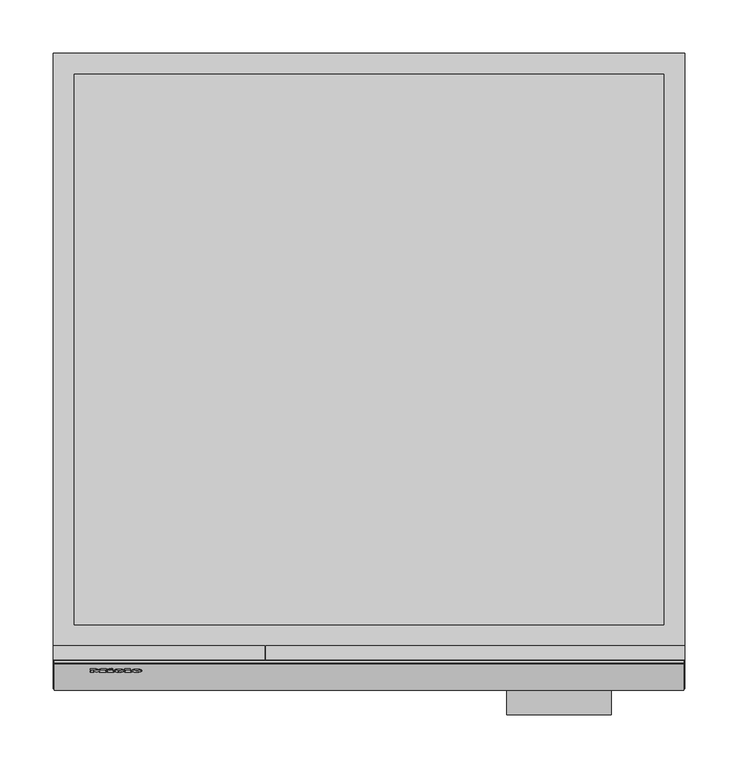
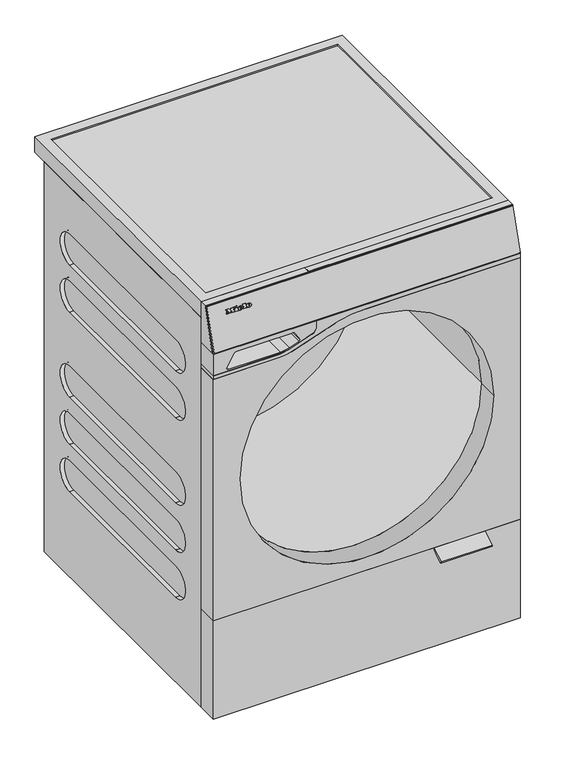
"""IFC4 building model written with IfcOpenShell, lengths in millimetres: proxy geometry, 12699240_TR_WQ1000WPS_LW : 11Q10002_TR_12699240_WQ1000WPS_LW."""

from ifc_helpers import new_model, si_unit, point, frame, frame_2d, origin, origin_with_axes, place, context, project, spatial, polyline, circle_curve, ellipse_curve, trimmed, segment, composite_curve, outline, extrude, source, transform, mapped, element, save
from ifc_brep_helpers import plane_surface, cylinder_surface, revolved_surface, extruded_surface, advanced_brep


def specialty_equipment_7e1ea05f(model_context):
    return source(origin(), model_context, "Body", "SolidModel", [
        extrude(outline(polyline([(0.0, 0.0), (0.0, -1.304), (-5.576, -1.304), (-7.92, 1.696), (-10.256, -1.304), (-15.128, -1.304), (-15.128, 0.0), (-14.112, 0.0), (-14.112, 5.352), (-15.128, 5.352), (-15.128, 6.696), (-8.744, 6.696), (-8.744, 5.352), (-9.728, 5.352), (-9.728, 1.8807777), (-6.136, 6.696), (-2.56, 1.9488753), (-2.56, 5.352), (-3.52, 5.352), (-3.52, 6.696), (0.0, 6.696), (0.0, 5.352), (-0.968, 5.352), (-0.968, 0.0), (0.0, 0.0)])), frame((-263.0, -580.9814349, 828.6106069), z_axis=(0.0, -0.9563047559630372, 0.2923717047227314), x_axis=(-1.0, 0.0, 0.0)), (0.0, 0.0, 1.0), 1.0),
        extrude(outline(polyline([(0.0, 0.0), (0.0, -1.304), (-5.504, -1.304), (-5.504, 5.352), (-6.488, 5.352), (-6.488, 6.696), (0.0, 6.696), (0.0, 5.352), (-0.96, 5.352), (-0.96, 0.0), (0.0, 0.0)])), frame((-230.536, -580.9814349, 828.6106069), z_axis=(0.0, -0.9563047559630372, 0.2923717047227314), x_axis=(-1.0, 0.0, 0.0)), (0.0, 0.0, 1.0), 1.0),
        extrude(outline(polyline([(0.0, 0.0), (-0.0109086, -2.9993294), (-1.4390415, -2.9920868), (-1.4315307, 0.0), (0.0, 0.0)])), frame((-245.08, -580.7381816, 829.4062525), z_axis=(0.0, -0.9563047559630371, 0.2923717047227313), x_axis=(-0.4247202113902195, 0.26469131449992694, 0.8657662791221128)), (0.0, 0.0, 1.0), 1.0),
        extrude(outline(polyline([(-0.4933909, 2.4141097), (-2.7800845, -2.4601582), (-7.0459743, -0.4588766), (-7.4401146, -1.2990179), (-8.656871, -0.7281939), (-5.976037, 4.9862153), (-4.7592806, 4.4153914), (-5.1636143, 3.5535223), (-2.1941494, 2.16044), (-1.7898157, 3.0223091), (-0.4933909, 2.4141097)])), frame((-245.08, -580.7381816, 829.4062525), z_axis=(0.0, -0.9563047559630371, 0.2923717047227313), x_axis=(-0.4247202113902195, 0.26469131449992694, 0.8657662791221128)), (0.0, 0.0, 1.0), 1.0),
        advanced_brep(
        [(-236.336, -583.3411238, 824.3127158), (-236.336, -583.1048875, 825.08541), (-230.984, -583.1048875, 825.08541), (-240.296, -583.1048875, 825.08541), (-238.096, -583.8954606, 822.499562), (-231.12, -583.3411238, 824.3127158), (-233.536, -583.3411238, 824.3127158), (-235.44, -583.6030888, 823.4558667), (-236.336, -582.8054988, 826.0646661), (-236.336, -582.5505507, 826.8985638), (-234.968, -582.5505507, 826.8985638), (-234.968, -582.8054988, 826.0646661), (-236.336, -582.384819, 824.0203441), (-235.44, -582.6467841, 823.163495), (-233.536, -582.384819, 824.0203441), (-231.12, -582.384819, 824.0203441), (-238.096, -582.9391558, 822.2071902), (-240.296, -582.1485827, 824.7930383), (-230.984, -582.1485827, 824.7930383), (-236.336, -582.1485827, 824.7930383), (-236.336, -581.8491941, 825.7722944), (-234.968, -581.8491941, 825.7722944), (-234.968, -581.594246, 826.6061921), (-236.336, -581.594246, 826.6061921)],
        [
            (0, 1),
            (1, 2),
            (2, 3, ellipse_curve(frame((-235.64, -583.1048875, 825.08541), z_axis=(0.0, -0.9563047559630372, 0.2923717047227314), x_axis=(-1.0, 0.0, 0.0)), 4.656, 3.848)),
            (3, 4, circle_curve(frame((-237.1999564, -583.0253624, 825.3455249), z_axis=(0.0, -0.9563047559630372, 0.2923717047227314), x_axis=(0.0, -0.2923717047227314, -0.9563047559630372)), 3.1079688)),
            (4, 5, circle_curve(frame((-235.7332064, -582.4078733, 827.3652406), z_axis=(0.0, -0.9563047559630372, 0.2923717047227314), x_axis=(0.0, -0.2923717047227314, -0.9563047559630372)), 5.6098607)),
            (5, 6),
            (6, 7, circle_curve(frame((-235.0489412, -583.1235993, 825.0242065), z_axis=(0.0, 0.9563047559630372, -0.2923717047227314), x_axis=(0.0, -0.2923717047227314, -0.9563047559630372)), 1.6859795)),
            (7, 0, circle_curve(frame((-235.44, -583.3411238, 824.3127158), z_axis=(0.0, 0.9563047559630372, -0.2923717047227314), x_axis=(0.0, -0.2923717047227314, -0.9563047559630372)), 0.896)),
            (8, 9),
            (9, 10, circle_curve(frame((-235.652, -582.5505507, 826.8985638), z_axis=(0.0, 0.9563047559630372, -0.2923717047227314), x_axis=(0.0, -0.2923717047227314, -0.9563047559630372)), 0.684)),
            (10, 11),
            (11, 8),
            (12, 13, circle_curve(frame((-235.44, -582.384819, 824.0203441), z_axis=(0.0, -0.9563047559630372, 0.2923717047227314), x_axis=(0.0, -0.2923717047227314, -0.9563047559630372)), 0.896)),
            (13, 14, circle_curve(frame((-235.0489412, -582.1672945, 824.7318348), z_axis=(0.0, -0.9563047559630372, 0.2923717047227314), x_axis=(0.0, -0.2923717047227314, -0.9563047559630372)), 1.6859795)),
            (14, 15),
            (15, 16, circle_curve(frame((-235.7332064, -581.4515686, 827.0728688), z_axis=(0.0, 0.9563047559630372, -0.2923717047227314), x_axis=(0.0, -0.2923717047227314, -0.9563047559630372)), 5.6098607)),
            (16, 17, circle_curve(frame((-237.1999564, -582.0690576, 825.0531532), z_axis=(0.0, 0.9563047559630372, -0.2923717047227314), x_axis=(0.0, -0.2923717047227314, -0.9563047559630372)), 3.1079688)),
            (17, 18, ellipse_curve(frame((-235.64, -582.1485827, 824.7930383), z_axis=(0.0, 0.9563047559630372, -0.2923717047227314), x_axis=(-1.0, 0.0, 0.0)), 4.656, 3.848)),
            (18, 19),
            (19, 12),
            (20, 21),
            (21, 22),
            (22, 23, circle_curve(frame((-235.652, -581.594246, 826.6061921), z_axis=(0.0, -0.9563047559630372, 0.2923717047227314), x_axis=(0.0, -0.2923717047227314, -0.9563047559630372)), 0.684)),
            (23, 20),
            (0, 12),
            (19, 1),
            (18, 2),
            (5, 15),
            (14, 6),
            (17, 3),
            (13, 7),
            (16, 4),
            (8, 20),
            (23, 9),
            (22, 10),
            (21, 11),
        ],
        [
            plane_surface(frame((-236.336, -583.1048875, 825.08541), z_axis=(0.0, -0.9563047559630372, 0.29237170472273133), x_axis=(0.0, 0.29237170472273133, 0.9563047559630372))),
            plane_surface(frame((-236.336, -582.1485827, 824.7930383), z_axis=(0.0, 0.9563047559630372, -0.29237170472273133), x_axis=(0.0, -0.29237170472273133, -0.9563047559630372))),
            plane_surface(frame((-236.336, -583.3411238, 824.3127158), z_axis=(1.0, 0.0, 0.0), x_axis=(0.0, 0.9563047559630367, -0.2923717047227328))),
            plane_surface(frame((-236.336, -583.1048875, 825.08541), z_axis=(0.0, -0.2923717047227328, -0.9563047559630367), x_axis=(0.0, 0.9563047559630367, -0.2923717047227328))),
            plane_surface(frame((-231.12, -583.3411238, 824.3127158), z_axis=(0.0, 0.2923717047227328, 0.9563047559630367), x_axis=(0.0, 0.9563047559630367, -0.2923717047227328))),
            extruded_surface(trimmed(ellipse_curve(frame((-235.64, -581.192278, 824.5006666), z_axis=(0.0, -0.9563047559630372, 0.2923717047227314), x_axis=(-1.0, 0.0, 0.0)), 4.656, 3.848), [point((-230.984, -581.192278, 824.5006666))], [point((-240.296, -581.192278, 824.5006666))], True, "CARTESIAN"), (0.0, -0.9563047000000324, 0.2923716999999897), 0.9999999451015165),
            revolved_surface(polyline([(-235.0489412, -582.6602271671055, 823.1195245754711), (-235.0489412, -583.6165319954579, 823.4118963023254)]), (-235.0489412, -582.1672945, 824.7318348), (0.0, 0.9563047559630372, -0.2923717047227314)),
            revolved_surface(polyline([(-235.44, -582.6467840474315, 823.1634950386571), (-235.44, -583.6030888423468, 823.4558667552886)]), (-235.44, -582.384819, 824.0203441), (0.0, 0.9563047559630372, -0.2923717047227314)),
            cylinder_surface(frame((-237.1999564, -582.0690576, 825.0531532), z_axis=(0.0, -0.9563047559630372, 0.2923717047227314), x_axis=(0.0, -0.2923717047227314, -0.9563047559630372)), 3.1079688),
            cylinder_surface(frame((-235.7332064, -581.4515686, 827.0728688), z_axis=(0.0, -0.9563047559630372, 0.2923717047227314), x_axis=(0.0, -0.2923717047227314, -0.9563047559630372)), 5.6098607),
            plane_surface(frame((-236.336, -582.8054988, 826.0646661), z_axis=(1.0, 0.0, 0.0), x_axis=(0.0, 0.9563047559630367, -0.2923717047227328))),
            revolved_surface(polyline([(-235.652, -581.7942282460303, 825.9520796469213), (-235.652, -582.7505329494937, 826.2444513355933)]), (-235.652, -581.594246, 826.6061921), (0.0, 0.9563047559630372, -0.2923717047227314)),
            plane_surface(frame((-234.968, -582.5505507, 826.8985638), z_axis=(-1.0, 0.0, 0.0), x_axis=(0.0, 0.9563047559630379, -0.29237170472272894))),
            plane_surface(frame((-234.968, -582.8054988, 826.0646661), z_axis=(0.0, 0.2923717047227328, 0.9563047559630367), x_axis=(0.0, 0.9563047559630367, -0.2923717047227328))),
        ],
        [
            (0, [[1, 2, 3, 4, 5, 6, 7, 8], [9, 10, 11, 12]]),
            (1, [[13, 14, 15, 16, 17, 18, 19, 20], [21, 22, 23, 24]]),
            (2, [[-1, 25, -20, 26]]),
            (3, [[-2, -26, -19, 27]]),
            (4, [[-6, 28, -15, 29]]),
            (5, [[-3, -27, -18, 30]]),
            (6, [[-7, -29, -14, 31]]),
            (7, [[-8, -31, -13, -25]]),
            (8, [[-4, -30, -17, 32]]),
            (9, [[-5, -32, -16, -28]]),
            (10, [[-9, 33, -24, 34]]),
            (11, [[-10, -34, -23, 35]]),
            (12, [[-11, -35, -22, 36]]),
            (13, [[-12, -36, -21, -33]]),
        ],
    ),
        advanced_brep(
        [(-219.64, -583.3411238, 824.3127158), (-219.64, -583.1048875, 825.08541), (-214.288, -583.1048875, 825.08541), (-223.6, -583.1048875, 825.08541), (-221.4, -583.8954606, 822.499562), (-214.424, -583.3411238, 824.3127158), (-216.84, -583.3411238, 824.3127158), (-218.744, -583.6030888, 823.4558667), (-219.64, -582.8054988, 826.0646661), (-219.64, -582.5505507, 826.8985638), (-218.272, -582.5505507, 826.8985638), (-218.272, -582.8054988, 826.0646661), (-219.64, -582.384819, 824.0203441), (-218.744, -582.6467841, 823.163495), (-216.84, -582.384819, 824.0203441), (-214.424, -582.384819, 824.0203441), (-221.4, -582.9391558, 822.2071902), (-223.6, -582.1485827, 824.7930383), (-214.288, -582.1485827, 824.7930383), (-219.64, -582.1485827, 824.7930383), (-219.64, -581.8491941, 825.7722944), (-218.272, -581.8491941, 825.7722944), (-218.272, -581.594246, 826.6061921), (-219.64, -581.594246, 826.6061921)],
        [
            (0, 1),
            (1, 2),
            (2, 3, ellipse_curve(frame((-218.944, -583.1048875, 825.08541), z_axis=(0.0, -0.9563047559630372, 0.2923717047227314), x_axis=(-1.0, 0.0, 0.0)), 4.656, 3.848)),
            (3, 4, circle_curve(frame((-220.5039564, -583.0253624, 825.3455249), z_axis=(0.0, -0.9563047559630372, 0.2923717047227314), x_axis=(0.0, -0.2923717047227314, -0.9563047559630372)), 3.1079688)),
            (4, 5, circle_curve(frame((-219.0372064, -582.4078733, 827.3652406), z_axis=(0.0, -0.9563047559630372, 0.2923717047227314), x_axis=(0.0, -0.2923717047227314, -0.9563047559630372)), 5.6098607)),
            (5, 6),
            (6, 7, circle_curve(frame((-218.3529412, -583.1235993, 825.0242065), z_axis=(0.0, 0.9563047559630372, -0.2923717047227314), x_axis=(0.0, -0.2923717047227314, -0.9563047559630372)), 1.6859795)),
            (7, 0, circle_curve(frame((-218.744, -583.3411238, 824.3127158), z_axis=(0.0, 0.9563047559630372, -0.2923717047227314), x_axis=(0.0, -0.2923717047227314, -0.9563047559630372)), 0.896)),
            (8, 9),
            (9, 10, circle_curve(frame((-218.956, -582.5505507, 826.8985638), z_axis=(0.0, 0.9563047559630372, -0.2923717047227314), x_axis=(0.0, -0.2923717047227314, -0.9563047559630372)), 0.684)),
            (10, 11),
            (11, 8),
            (12, 13, circle_curve(frame((-218.744, -582.384819, 824.0203441), z_axis=(0.0, -0.9563047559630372, 0.2923717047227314), x_axis=(0.0, -0.2923717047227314, -0.9563047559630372)), 0.896)),
            (13, 14, circle_curve(frame((-218.3529412, -582.1672945, 824.7318348), z_axis=(0.0, -0.9563047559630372, 0.2923717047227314), x_axis=(0.0, -0.2923717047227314, -0.9563047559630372)), 1.6859795)),
            (14, 15),
            (15, 16, circle_curve(frame((-219.0372064, -581.4515686, 827.0728688), z_axis=(0.0, 0.9563047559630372, -0.2923717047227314), x_axis=(0.0, -0.2923717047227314, -0.9563047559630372)), 5.6098607)),
            (16, 17, circle_curve(frame((-220.5039564, -582.0690576, 825.0531532), z_axis=(0.0, 0.9563047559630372, -0.2923717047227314), x_axis=(0.0, -0.2923717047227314, -0.9563047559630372)), 3.1079688)),
            (17, 18, ellipse_curve(frame((-218.944, -582.1485827, 824.7930383), z_axis=(0.0, 0.9563047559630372, -0.2923717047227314), x_axis=(-1.0, 0.0, 0.0)), 4.656, 3.848)),
            (18, 19),
            (19, 12),
            (20, 21),
            (21, 22),
            (22, 23, circle_curve(frame((-218.956, -581.594246, 826.6061921), z_axis=(0.0, -0.9563047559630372, 0.2923717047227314), x_axis=(0.0, -0.2923717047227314, -0.9563047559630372)), 0.684)),
            (23, 20),
            (0, 12),
            (19, 1),
            (18, 2),
            (5, 15),
            (14, 6),
            (17, 3),
            (13, 7),
            (16, 4),
            (8, 20),
            (23, 9),
            (22, 10),
            (21, 11),
        ],
        [
            plane_surface(frame((-219.64, -583.1048875, 825.08541), z_axis=(0.0, -0.9563047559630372, 0.29237170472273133), x_axis=(0.0, 0.29237170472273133, 0.9563047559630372))),
            plane_surface(frame((-219.64, -582.1485827, 824.7930383), z_axis=(0.0, 0.9563047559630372, -0.29237170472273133), x_axis=(0.0, -0.29237170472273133, -0.9563047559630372))),
            plane_surface(frame((-219.64, -583.3411238, 824.3127158), z_axis=(1.0, 0.0, 0.0), x_axis=(0.0, 0.9563047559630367, -0.2923717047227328))),
            plane_surface(frame((-219.64, -583.1048875, 825.08541), z_axis=(0.0, -0.2923717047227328, -0.9563047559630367), x_axis=(0.0, 0.9563047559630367, -0.2923717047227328))),
            plane_surface(frame((-214.424, -583.3411238, 824.3127158), z_axis=(0.0, 0.2923717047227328, 0.9563047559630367), x_axis=(0.0, 0.9563047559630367, -0.2923717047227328))),
            extruded_surface(trimmed(ellipse_curve(frame((-218.944, -581.192278, 824.5006666), z_axis=(0.0, -0.9563047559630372, 0.2923717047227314), x_axis=(-1.0, 0.0, 0.0)), 4.656, 3.848), [point((-214.288, -581.192278, 824.5006666))], [point((-223.6, -581.192278, 824.5006666))], True, "CARTESIAN"), (0.0, -0.9563047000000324, 0.2923716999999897), 0.9999999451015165),
            revolved_surface(polyline([(-218.3529412, -582.6602271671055, 823.1195245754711), (-218.3529412, -583.6165319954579, 823.4118963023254)]), (-218.3529412, -582.1672945, 824.7318348), (0.0, 0.9563047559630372, -0.2923717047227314)),
            revolved_surface(polyline([(-218.744, -582.6467840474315, 823.1634950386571), (-218.744, -583.6030888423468, 823.4558667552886)]), (-218.744, -582.384819, 824.0203441), (0.0, 0.9563047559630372, -0.2923717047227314)),
            cylinder_surface(frame((-220.5039564, -582.0690576, 825.0531532), z_axis=(0.0, -0.9563047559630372, 0.2923717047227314), x_axis=(0.0, -0.2923717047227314, -0.9563047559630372)), 3.1079688),
            cylinder_surface(frame((-219.0372064, -581.4515686, 827.0728688), z_axis=(0.0, -0.9563047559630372, 0.2923717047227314), x_axis=(0.0, -0.2923717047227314, -0.9563047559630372)), 5.6098607),
            plane_surface(frame((-219.64, -582.8054988, 826.0646661), z_axis=(1.0, 0.0, 0.0), x_axis=(0.0, 0.9563047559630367, -0.2923717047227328))),
            revolved_surface(polyline([(-218.956, -581.7942282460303, 825.9520796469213), (-218.956, -582.7505329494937, 826.2444513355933)]), (-218.956, -581.594246, 826.6061921), (0.0, 0.9563047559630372, -0.2923717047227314)),
            plane_surface(frame((-218.272, -582.5505507, 826.8985638), z_axis=(-1.0, 0.0, 0.0), x_axis=(0.0, 0.9563047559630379, -0.29237170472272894))),
            plane_surface(frame((-218.272, -582.8054988, 826.0646661), z_axis=(0.0, 0.2923717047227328, 0.9563047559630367), x_axis=(0.0, 0.9563047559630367, -0.2923717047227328))),
        ],
        [
            (0, [[1, 2, 3, 4, 5, 6, 7, 8], [9, 10, 11, 12]]),
            (1, [[13, 14, 15, 16, 17, 18, 19, 20], [21, 22, 23, 24]]),
            (2, [[-1, 25, -20, 26]]),
            (3, [[-2, -26, -19, 27]]),
            (4, [[-6, 28, -15, 29]]),
            (5, [[-3, -27, -18, 30]]),
            (6, [[-7, -29, -14, 31]]),
            (7, [[-8, -31, -13, -25]]),
            (8, [[-4, -30, -17, 32]]),
            (9, [[-5, -32, -16, -28]]),
            (10, [[-9, 33, -24, 34]]),
            (11, [[-10, -34, -23, 35]]),
            (12, [[-11, -35, -22, 36]]),
            (13, [[-12, -36, -21, -33]]),
        ],
    ),
        extrude(outline(composite_curve([segment(polyline([(710.4000001, -167.8774567), (710.4000001, -298.0), (215.6188977, -298.0), (215.6188977, 298.0), (751.9000001, 298.0), (751.9000001, 0.0)]), True, "CONTINUOUS"), segment(trimmed(circle_curve(frame_2d((501.5187296, 1.5017391)), 250.3857741), [point((751.9000001, 0.0))], [point((745.6736814, -54.0085784))], False, "CARTESIAN"), True, "CONTINUOUS"), segment(trimmed(circle_curve(frame_2d((280.8618856, 51.6695993)), 476.6737697), [point((745.6736814, -54.0085784))], [point((714.6452508, -145.9408124))], False, "CARTESIAN"), True, "CONTINUOUS"), segment(trimmed(circle_curve(frame_2d((769.1996504, -167.8774567)), 58.7996503), [point((714.6452508, -145.9408124))], [point((710.4000001, -167.8774567))], True, "CARTESIAN"), True, "CONTINUOUS")], self_intersect=False), holes=[composite_curve([segment(trimmed(circle_curve(frame_2d((487.4000306, 0.0)), 246.0), [point((487.4000306, -246.0))], [point((487.4000306, 246.0))], True, "CARTESIAN"), True, "CONTINUOUS"), segment(trimmed(circle_curve(frame_2d((487.4000306, 0.0)), 246.0), [point((487.4000306, 246.0))], [point((487.4000306, -246.0))], True, "CARTESIAN"), True, "CONTINUOUS")], self_intersect=False)]), frame((0.0, -599.7000366, 0.0), z_axis=(0.0, 1.0, 0.0), x_axis=(0.0, 0.0, 1.0)), (0.0, 0.0, 1.0), 40.6000366),
        extrude(outline(polyline([(-559.1, 762.3), (-596.2042878, 762.3), (-572.3935182, 843.3857744), (-572.4524096, 844.526802), (-572.2160192, 845.3), (-559.1, 845.3), (-559.1, 762.3)])), frame((-97.1149075, 0.0, 0.0), z_axis=(1.0, 0.0, 0.0), x_axis=(0.0, 1.0, 0.0)), (0.0, 0.0, 1.0), 395.1149075),
        extrude(outline(composite_curve([segment(polyline([(751.9000001, 298.0), (761.0, 298.0), (761.0, -96.8820038), (745.9256595, -96.8820038), (737.9773316, -102.3863678), (720.3481445, -149.4685059), (717.0, -167.8774567), (717.0, -298.0), (710.4000001, -298.0), (710.4000001, -167.8774567)]), True, "CONTINUOUS"), segment(trimmed(circle_curve(frame_2d((772.0291409, -168.6248157)), 61.6336721), [point((710.4000001, -167.8774567))], [point((715.7927986, -143.4021406))], False, "CARTESIAN"), True, "CONTINUOUS"), segment(trimmed(circle_curve(frame_2d((280.8618856, 51.6695993)), 476.6737697), [point((715.7927986, -143.4021406))], [point((745.6736814, -54.0085784))], True, "CARTESIAN"), True, "CONTINUOUS"), segment(trimmed(circle_curve(frame_2d((501.6012928, 1.4829678)), 250.3011038), [point((745.6736814, -54.0085784))], [point((751.9000001, 0.3876601))], True, "CARTESIAN"), True, "CONTINUOUS"), segment(polyline([(751.9000001, 0.3876601), (751.9000001, 298.0)]), True, "CONTINUOUS")], self_intersect=False)), frame((0.0, -599.7000366, 0.0), z_axis=(0.0, 1.0, 0.0), x_axis=(0.0, 0.0, 1.0)), (0.0, 0.0, 1.0), 40.6000366),
        extrude(outline(polyline([(-572.3935182, 843.3857744), (-572.4524096, 844.526802), (-572.2160192, 845.3), (-559.1, 845.3), (-559.1, 762.3), (-596.2042878, 762.3), (-572.3935182, 843.3857744)])), frame((-298.0, 0.0, 0.0), z_axis=(1.0, 0.0, 0.0), x_axis=(0.0, 1.0, 0.0)), (0.0, 0.0, 1.0), 199.6360855),
        extrude(outline(polyline([(761.0, -298.0), (718.8, -298.0), (718.8, -167.8807468), (722.0340322, -150.0992146), (739.4902815, -103.47678), (746.4139612, -98.6820038), (761.0, -98.6820038), (761.0, -298.0)]), holes=[composite_curve([segment(polyline([(752.2634277, -251.4616852), (752.2634277, -145.0555023)]), True, "CONTINUOUS"), segment(trimmed(circle_curve(frame_2d((744.2488327, -145.0555023)), 8.014595), [point((752.2634277, -145.0555023))], [point((749.1478052, -138.7124903))], True, "CARTESIAN"), True, "CONTINUOUS"), segment(polyline([(749.1478052, -138.7124903), (734.3301906, -130.3850664)]), True, "CONTINUOUS"), segment(trimmed(circle_curve(frame_2d((734.0907283, -133.6964831)), 3.3200637), [point((734.3301906, -130.3850664))], [point((730.9832764, -132.5274811))], True, "CARTESIAN"), True, "CONTINUOUS"), segment(polyline([(730.9832764, -132.5274811), (724.1028442, -150.8171082), (721.0, -167.832509), (721.0, -268.6459351)]), True, "CONTINUOUS"), segment(trimmed(circle_curve(frame_2d((723.9169735, -268.6459351)), 2.9169735), [point((721.0, -268.6459351))], [point((724.0558472, -271.5596008))], True, "CARTESIAN"), True, "CONTINUOUS"), segment(polyline([(724.0558472, -271.5596008), (749.4986329, -256.9425364)]), True, "CONTINUOUS"), segment(trimmed(circle_curve(frame_2d((745.448488, -251.4616852)), 6.8149398), [point((749.4986329, -256.9425364))], [point((752.2634277, -251.4616852))], True, "CARTESIAN"), True, "CONTINUOUS")], self_intersect=False)]), frame((0.0, -599.7000366, 0.0), z_axis=(0.0, 1.0, 0.0), x_axis=(0.0, 0.0, 1.0)), (0.0, 0.0, 1.0), 40.6000366),
        extrude(outline(composite_curve([segment(polyline([(-600.9582159, 763.5195004), (-576.1181996, 844.7675328)]), True, "CONTINUOUS"), segment(trimmed(circle_curve(frame_2d((-574.6364467, 842.2655288)), 2.9078541), [point((-576.1181996, 844.7675328))], [point((-575.2348956, 845.1111349))], False, "CARTESIAN"), True, "CONTINUOUS"), segment(trimmed(circle_curve(frame_2d((-574.6998044, 842.5667927)), 2.6), [point((-575.2348956, 845.1111349))], [point((-572.8334156, 844.3769288))], False, "CARTESIAN"), True, "CONTINUOUS"), segment(trimmed(circle_curve(frame_2d((-574.921586, 842.3516956)), 2.908956), [point((-572.8334156, 844.3769288))], [point((-572.29305, 843.5978189))], False, "CARTESIAN"), True, "CONTINUOUS"), segment(polyline([(-572.29305, 843.5978189), (-597.1329919, 762.3500298)]), True, "CONTINUOUS"), segment(trimmed(circle_curve(frame_2d((-598.1377739, 763.6260704)), 1.624151), [point((-597.1329919, 762.3500298))], [point((-598.0166069, 762.0064454))], False, "CARTESIAN"), True, "CONTINUOUS"), segment(trimmed(circle_curve(frame_2d((-598.5851726, 764.4409337)), 2.5), [point((-598.0166069, 762.0064454))], [point((-600.4178834, 762.7405893))], False, "CARTESIAN"), True, "CONTINUOUS"), segment(trimmed(circle_curve(frame_2d((-599.4324119, 764.0010837)), 1.6), [point((-600.4178834, 762.7405893))], [point((-600.9582159, 763.5195004))], False, "CARTESIAN"), True, "CONTINUOUS")], self_intersect=False)), frame((-296.6980896, 0.0, 0.0), z_axis=(1.0, 0.0, 0.0), x_axis=(0.0, 1.0, 0.0)), (0.0, 0.0, 1.0), 593.8151855),
        extrude(outline(polyline([(298.0, -599.7000366), (-298.0, -599.7000366), (-298.0, -559.1), (298.0, -559.1), (298.0, -599.7000366)])), frame((0.0, 0.0, 13.0), z_axis=(0.0, 0.0, 1.0), x_axis=(1.0, 0.0, 0.0)), (0.0, 0.0, 1.0), 202.6188977),
        extrude(outline(polyline([(-599.7000366, 215.6188977), (-599.7000366, 213.6073379), (-612.024765, 204.1588655), (-624.0382767, 199.0372682), (-624.2662735, 201.4449525), (-599.7000366, 215.6188977)])), frame((129.8000031, 0.0, 0.0), z_axis=(1.0, 0.0, 0.0), x_axis=(0.0, 1.0, 0.0)), (0.0, 0.0, 1.0), 99.0),
        advanced_brep(
        [(298.0, -559.1, 813.1000123), (298.0, -559.1, 13.4000001), (298.0, -32.0, 13.4000001), (298.0, -32.0, 813.1000123), (298.0, -474.1000366, 652.6953492), (298.0, -474.1000366, 716.104712), (298.0, -117.0, 716.104712), (298.0, -117.0, 652.6953492), (298.0, -474.1000366, 555.6952919), (298.0, -474.1000366, 619.1046547), (298.0, -117.0, 619.1046547), (298.0, -117.0, 555.6952919), (298.0, -474.1000366, 381.6953492), (298.0, -474.1000366, 445.104712), (298.0, -117.0, 445.104712), (298.0, -117.0, 381.6953492), (298.0, -474.1000366, 284.6952919), (298.0, -474.1000366, 348.1046547), (298.0, -117.0, 348.1046547), (298.0, -117.0, 284.6952919), (298.0, -474.1000366, 250.9805145), (298.0, -117.0, 250.9805145), (298.0, -117.0, 187.5711517), (298.0, -474.1000366, 187.5711517), (-298.0, -559.1, 813.1000123), (-298.0, -32.0, 813.1000123), (-298.0, -32.0, 13.4000001), (-298.0, -559.1, 13.4000001), (-298.0, -474.1000366, 716.104712), (-298.0, -474.1000366, 652.6953492), (-298.0, -117.1007385, 652.6953492), (-298.0, -117.1007385, 716.104712), (-298.0, -474.1000366, 619.1046547), (-298.0, -474.1000366, 555.6952919), (-298.0, -117.1007385, 555.6952919), (-298.0, -117.1007385, 619.1046547), (-298.0, -474.1000366, 445.104712), (-298.0, -474.1000366, 381.6953492), (-298.0, -117.0, 381.6953492), (-298.0, -117.0, 445.104712), (-298.0, -474.1000366, 348.1046547), (-298.0, -474.1000366, 284.6952919), (-298.0, -117.0, 284.6952919), (-298.0, -117.0, 348.1046547), (-298.0, -474.1000366, 251.104712), (-298.0, -474.1000366, 187.6953492), (-298.0, -117.0, 187.6953492), (-298.0, -117.0, 251.104712), (246.0, -559.1, 487.4), (-246.0, -559.1, 487.4), (-289.8140699, -474.1000366, 716.104712), (-289.8140699, -117.1007385, 716.104712), (-289.8140699, -117.1007385, 652.6953492), (-289.8140699, -474.1000366, 652.6953492), (-289.8140699, -474.1000366, 619.1046547), (-289.8140699, -117.1007385, 619.1046547), (-289.8140699, -117.1007385, 555.6952919), (-289.8140699, -474.1000366, 555.6952919), (-289.8140699, -474.1000366, 445.104712), (-289.8140699, -117.0, 445.104712), (-289.8140699, -117.0, 381.6953492), (-289.8140699, -474.1000366, 381.6953492), (-289.8140699, -474.1000366, 348.1046547), (-289.8140699, -117.0, 348.1046547), (-289.8140699, -117.0, 284.6952919), (-289.8140699, -474.1000366, 284.6952919), (-289.8140699, -474.1000366, 251.104712), (-289.8140699, -117.0, 251.104712), (-289.8140699, -117.0, 187.6953492), (-289.8140699, -474.1000366, 187.6953492), (289.8140699, -474.1000366, 716.104712), (289.8140699, -474.1000366, 652.6953492), (289.8140699, -117.0, 652.6953492), (289.8140699, -117.0, 716.104712), (289.8140699, -474.1000366, 619.1046547), (289.8140699, -474.1000366, 555.6952919), (289.8140699, -117.0, 555.6952919), (289.8140699, -117.0, 619.1046547), (289.8140699, -474.1000366, 445.104712), (289.8140699, -474.1000366, 381.6953492), (289.8140699, -117.0, 381.6953492), (289.8140699, -117.0, 445.104712), (289.8140699, -474.1000366, 348.1046547), (289.8140699, -474.1000366, 284.6952919), (289.8140699, -117.0, 284.6952919), (289.8140699, -117.0, 348.1046547), (289.8140699, -474.1000366, 250.9805145), (289.8140699, -474.1000366, 187.5711517), (289.8140699, -117.0, 187.5711517), (289.8140699, -117.0, 250.9805145), (-246.0, -154.1771988, 487.4), (246.0, -154.1771988, 487.4)],
        [
            (0, 1),
            (1, 2),
            (2, 3),
            (3, 0),
            (4, 5, circle_curve(frame((298.0, -474.1000366, 684.4000306), z_axis=(-1.0, 0.0, 0.0), x_axis=(0.0, 1.0, 0.0)), 31.7046814)),
            (5, 6),
            (6, 7, circle_curve(frame((298.0, -117.0, 684.4000306), z_axis=(-1.0, 0.0, 0.0), x_axis=(0.0, 1.0, 0.0)), 31.7046814)),
            (7, 4),
            (8, 9, circle_curve(frame((298.0, -474.1000366, 587.3999733), z_axis=(-1.0, 0.0, 0.0), x_axis=(0.0, 1.0, 0.0)), 31.7046814)),
            (9, 10),
            (10, 11, circle_curve(frame((298.0, -117.0, 587.3999733), z_axis=(-1.0, 0.0, 0.0), x_axis=(0.0, 1.0, 0.0)), 31.7046814)),
            (11, 8),
            (12, 13, circle_curve(frame((298.0, -474.1000366, 413.4000306), z_axis=(-1.0, 0.0, 0.0), x_axis=(0.0, 1.0, 0.0)), 31.7046814)),
            (13, 14),
            (14, 15, circle_curve(frame((298.0, -117.0, 413.4000306), z_axis=(-1.0, 0.0, 0.0), x_axis=(0.0, 1.0, 0.0)), 31.7046814)),
            (15, 12),
            (16, 17, circle_curve(frame((298.0, -474.1000366, 316.3999733), z_axis=(-1.0, 0.0, 0.0), x_axis=(0.0, 1.0, 0.0)), 31.7046814)),
            (17, 18),
            (18, 19, circle_curve(frame((298.0, -117.0, 316.3999733), z_axis=(-1.0, 0.0, 0.0), x_axis=(0.0, 1.0, 0.0)), 31.7046814)),
            (19, 16),
            (20, 21),
            (21, 22, circle_curve(frame((298.0, -117.0, 219.2758331), z_axis=(-1.0, 0.0, 0.0), x_axis=(0.0, 1.0, 0.0)), 31.7046814)),
            (22, 23),
            (23, 20, circle_curve(frame((298.0, -474.1000366, 219.2758331), z_axis=(-1.0, 0.0, 0.0), x_axis=(0.0, 1.0, 0.0)), 31.7046814)),
            (24, 25),
            (25, 26),
            (26, 27),
            (27, 24),
            (28, 29, circle_curve(frame((-298.0, -474.1000366, 684.4000306), z_axis=(1.0, 0.0, 0.0), x_axis=(0.0, 1.0, 0.0)), 31.7046814)),
            (29, 30),
            (30, 31, circle_curve(frame((-298.0, -117.1007385, 684.4000306), z_axis=(1.0, 0.0, 0.0), x_axis=(0.0, 1.0, 0.0)), 31.7046814)),
            (31, 28),
            (32, 33, circle_curve(frame((-298.0, -474.1000366, 587.3999733), z_axis=(1.0, 0.0, 0.0), x_axis=(0.0, 1.0, 0.0)), 31.7046814)),
            (33, 34),
            (34, 35, circle_curve(frame((-298.0, -117.1007385, 587.3999733), z_axis=(1.0, 0.0, 0.0), x_axis=(0.0, 1.0, 0.0)), 31.7046814)),
            (35, 32),
            (36, 37, circle_curve(frame((-298.0, -474.1000366, 413.4000306), z_axis=(1.0, 0.0, 0.0), x_axis=(0.0, 1.0, 0.0)), 31.7046814)),
            (37, 38),
            (38, 39, circle_curve(frame((-298.0, -117.0, 413.4000306), z_axis=(1.0, 0.0, 0.0), x_axis=(0.0, 1.0, 0.0)), 31.7046814)),
            (39, 36),
            (40, 41, circle_curve(frame((-298.0, -474.1000366, 316.3999733), z_axis=(1.0, 0.0, 0.0), x_axis=(0.0, 1.0, 0.0)), 31.7046814)),
            (41, 42),
            (42, 43, circle_curve(frame((-298.0, -117.0, 316.3999733), z_axis=(1.0, 0.0, 0.0), x_axis=(0.0, 1.0, 0.0)), 31.7046814)),
            (43, 40),
            (44, 45, circle_curve(frame((-298.0, -474.1000366, 219.4000306), z_axis=(1.0, 0.0, 0.0), x_axis=(0.0, 1.0, 0.0)), 31.7046814)),
            (45, 46),
            (46, 47, circle_curve(frame((-298.0, -117.0, 219.4000306), z_axis=(1.0, 0.0, 0.0), x_axis=(0.0, 1.0, 0.0)), 31.7046814)),
            (47, 44),
            (0, 24),
            (27, 1),
            (48, 49, circle_curve(frame((0.0, -559.1, 487.4), z_axis=(0.0, 1.0, 0.0), x_axis=(1.0, 0.0, 0.0)), 246.0)),
            (49, 48, circle_curve(frame((0.0, -559.1, 487.4), z_axis=(0.0, 1.0, 0.0), x_axis=(1.0, 0.0, 0.0)), 246.0)),
            (26, 2),
            (25, 3),
            (50, 51),
            (51, 52, circle_curve(frame((-289.8140699, -117.1007385, 684.4000306), z_axis=(-1.0, 0.0, 0.0), x_axis=(0.0, 1.0, 0.0)), 31.7046814)),
            (52, 53),
            (53, 50, circle_curve(frame((-289.8140699, -474.1000366, 684.4000306), z_axis=(-1.0, 0.0, 0.0), x_axis=(0.0, 1.0, 0.0)), 31.7046814)),
            (54, 55),
            (55, 56, circle_curve(frame((-289.8140699, -117.1007385, 587.3999733), z_axis=(-1.0, 0.0, 0.0), x_axis=(0.0, 1.0, 0.0)), 31.7046814)),
            (56, 57),
            (57, 54, circle_curve(frame((-289.8140699, -474.1000366, 587.3999733), z_axis=(-1.0, 0.0, 0.0), x_axis=(0.0, 1.0, 0.0)), 31.7046814)),
            (58, 59),
            (59, 60, circle_curve(frame((-289.8140699, -117.0, 413.4000306), z_axis=(-1.0, 0.0, 0.0), x_axis=(0.0, 1.0, 0.0)), 31.7046814)),
            (60, 61),
            (61, 58, circle_curve(frame((-289.8140699, -474.1000366, 413.4000306), z_axis=(-1.0, 0.0, 0.0), x_axis=(0.0, 1.0, 0.0)), 31.7046814)),
            (62, 63),
            (63, 64, circle_curve(frame((-289.8140699, -117.0, 316.3999733), z_axis=(-1.0, 0.0, 0.0), x_axis=(0.0, 1.0, 0.0)), 31.7046814)),
            (64, 65),
            (65, 62, circle_curve(frame((-289.8140699, -474.1000366, 316.3999733), z_axis=(-1.0, 0.0, 0.0), x_axis=(0.0, 1.0, 0.0)), 31.7046814)),
            (66, 67),
            (67, 68, circle_curve(frame((-289.8140699, -117.0, 219.4000306), z_axis=(-1.0, 0.0, 0.0), x_axis=(0.0, 1.0, 0.0)), 31.7046814)),
            (68, 69),
            (69, 66, circle_curve(frame((-289.8140699, -474.1000366, 219.4000306), z_axis=(-1.0, 0.0, 0.0), x_axis=(0.0, 1.0, 0.0)), 31.7046814)),
            (53, 29),
            (28, 50),
            (52, 30),
            (51, 31),
            (57, 33),
            (32, 54),
            (56, 34),
            (55, 35),
            (61, 37),
            (36, 58),
            (60, 38),
            (59, 39),
            (65, 41),
            (40, 62),
            (64, 42),
            (63, 43),
            (70, 71, circle_curve(frame((289.8140699, -474.1000366, 684.4000306), z_axis=(1.0, 0.0, 0.0), x_axis=(0.0, 1.0, 0.0)), 31.7046814)),
            (71, 72),
            (72, 73, circle_curve(frame((289.8140699, -117.0, 684.4000306), z_axis=(1.0, 0.0, 0.0), x_axis=(0.0, 1.0, 0.0)), 31.7046814)),
            (73, 70),
            (74, 75, circle_curve(frame((289.8140699, -474.1000366, 587.3999733), z_axis=(1.0, 0.0, 0.0), x_axis=(0.0, 1.0, 0.0)), 31.7046814)),
            (75, 76),
            (76, 77, circle_curve(frame((289.8140699, -117.0, 587.3999733), z_axis=(1.0, 0.0, 0.0), x_axis=(0.0, 1.0, 0.0)), 31.7046814)),
            (77, 74),
            (78, 79, circle_curve(frame((289.8140699, -474.1000366, 413.4000306), z_axis=(1.0, 0.0, 0.0), x_axis=(0.0, 1.0, 0.0)), 31.7046814)),
            (79, 80),
            (80, 81, circle_curve(frame((289.8140699, -117.0, 413.4000306), z_axis=(1.0, 0.0, 0.0), x_axis=(0.0, 1.0, 0.0)), 31.7046814)),
            (81, 78),
            (82, 83, circle_curve(frame((289.8140699, -474.1000366, 316.3999733), z_axis=(1.0, 0.0, 0.0), x_axis=(0.0, 1.0, 0.0)), 31.7046814)),
            (83, 84),
            (84, 85, circle_curve(frame((289.8140699, -117.0, 316.3999733), z_axis=(1.0, 0.0, 0.0), x_axis=(0.0, 1.0, 0.0)), 31.7046814)),
            (85, 82),
            (86, 87, circle_curve(frame((289.8140699, -474.1000366, 219.2758331), z_axis=(1.0, 0.0, 0.0), x_axis=(0.0, 1.0, 0.0)), 31.7046814)),
            (87, 88),
            (88, 89, circle_curve(frame((289.8140699, -117.0, 219.2758331), z_axis=(1.0, 0.0, 0.0), x_axis=(0.0, 1.0, 0.0)), 31.7046814)),
            (89, 86),
            (70, 5),
            (4, 71),
            (7, 72),
            (6, 73),
            (74, 9),
            (8, 75),
            (11, 76),
            (10, 77),
            (78, 13),
            (12, 79),
            (15, 80),
            (14, 81),
            (82, 17),
            (16, 83),
            (19, 84),
            (18, 85),
            (69, 45),
            (44, 66),
            (68, 46),
            (67, 47),
            (89, 21),
            (20, 86),
            (88, 22),
            (87, 23),
            (90, 91, circle_curve(frame((0.0, -154.1771988, 487.4), z_axis=(0.0, -1.0, 0.0), x_axis=(1.0, 0.0, 0.0)), 246.0)),
            (91, 90, circle_curve(frame((0.0, -154.1771988, 487.4), z_axis=(0.0, -1.0, 0.0), x_axis=(1.0, 0.0, 0.0)), 246.0)),
            (90, 49),
            (48, 91),
        ],
        [
            plane_surface(frame((298.0, -559.1, 813.1000123), z_axis=(1.0, 0.0, 0.0), x_axis=(0.0, 0.0, -1.0))),
            plane_surface(frame((-298.0, -559.1, 813.1000123), z_axis=(-1.0, 0.0, 0.0), x_axis=(0.0, 0.0, 1.0))),
            plane_surface(frame((298.0, -559.1, 813.1000123), z_axis=(0.0, -1.0, 0.0), x_axis=(-1.0, 0.0, 0.0))),
            plane_surface(frame((298.0, -559.1, 13.4000001), z_axis=(0.0, 0.0, -1.0), x_axis=(-1.0, 0.0, 0.0))),
            plane_surface(frame((298.0, -32.0, 13.4000001), z_axis=(0.0, 1.0, 0.0), x_axis=(-1.0, 0.0, 0.0))),
            plane_surface(frame((298.0, -32.0, 813.1000123), z_axis=(0.0, 0.0, 1.0), x_axis=(-1.0, 0.0, 0.0))),
            plane_surface(frame((-289.8140699, -442.3953552, 684.4000306), z_axis=(-1.0, 0.0, 0.0), x_axis=(0.0, 0.0, 1.0))),
            revolved_surface(polyline([(-289.8140699, -442.39535520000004, 684.4000306), (-298.0, -442.39535520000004, 684.4000306)]), (-305.7094305, -474.1000366, 684.4000306), (1.0, 0.0, 0.0)),
            plane_surface(frame((-289.8140699, -474.1000366, 652.6953492), z_axis=(0.0, 0.0, 1.0), x_axis=(-1.0, 0.0, 0.0))),
            revolved_surface(polyline([(-289.8140699, -85.39605710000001, 684.4000306), (-298.0, -85.39605710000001, 684.4000306)]), (-305.7094305, -117.1007385, 684.4000306), (1.0, 0.0, 0.0)),
            plane_surface(frame((-289.8140699, -117.1007385, 716.104712), z_axis=(0.0, 0.0, -1.0), x_axis=(-1.0, 0.0, 0.0))),
            revolved_surface(polyline([(-289.8140699, -442.39535520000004, 587.3999733), (-298.0, -442.39535520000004, 587.3999733)]), (0.0, -474.1000366, 587.3999733), (1.0, 0.0, 0.0)),
            plane_surface(frame((-289.8140699, -474.1000366, 555.6952919), z_axis=(0.0, 0.0, 1.0), x_axis=(-1.0, 0.0, 0.0))),
            revolved_surface(polyline([(-289.8140699, -85.39605710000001, 587.3999733), (-298.0, -85.39605710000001, 587.3999733)]), (0.0, -117.1007385, 587.3999733), (1.0, 0.0, 0.0)),
            plane_surface(frame((-289.8140699, -117.1007385, 619.1046547), z_axis=(0.0, 0.0, -1.0), x_axis=(-1.0, 0.0, 0.0))),
            revolved_surface(polyline([(-289.8140699, -442.39535520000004, 413.4000306), (-298.0, -442.39535520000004, 413.4000306)]), (0.0, -474.1000366, 413.4000306), (1.0, 0.0, 0.0)),
            plane_surface(frame((-289.8140699, -474.1000366, 381.6953492), z_axis=(0.0, 0.0, 1.0), x_axis=(-1.0, 0.0, 0.0))),
            revolved_surface(polyline([(-289.8140699, -85.2953186, 413.4000306), (-298.0, -85.2953186, 413.4000306)]), (0.0, -117.0, 413.4000306), (1.0, 0.0, 0.0)),
            plane_surface(frame((-289.8140699, -117.0, 445.104712), z_axis=(0.0, 0.0, -1.0), x_axis=(-1.0, 0.0, 0.0))),
            revolved_surface(polyline([(-289.8140699, -442.39535520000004, 316.3999733), (-298.0, -442.39535520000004, 316.3999733)]), (0.0, -474.1000366, 316.3999733), (1.0, 0.0, 0.0)),
            plane_surface(frame((-289.8140699, -474.1000366, 284.6952919), z_axis=(0.0, 0.0, 1.0), x_axis=(-1.0, 0.0, 0.0))),
            revolved_surface(polyline([(-289.8140699, -85.2953186, 316.3999733), (-298.0, -85.2953186, 316.3999733)]), (0.0, -117.0, 316.3999733), (1.0, 0.0, 0.0)),
            plane_surface(frame((-289.8140699, -117.0, 348.1046547), z_axis=(0.0, 0.0, -1.0), x_axis=(-1.0, 0.0, 0.0))),
            plane_surface(frame((289.8140699, -117.0, 716.104712), z_axis=(1.0, 0.0, 0.0), x_axis=(0.0, 1.0, 0.0))),
            revolved_surface(polyline([(289.8140699, -442.39535520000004, 684.4000306), (298.0, -442.39535520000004, 684.4000306)]), (305.7094305, -474.1000366, 684.4000306), (-1.0, 0.0, 0.0)),
            plane_surface(frame((289.8140699, -117.0, 652.6953492), z_axis=(0.0, 0.0, 1.0), x_axis=(1.0, 0.0, 0.0))),
            revolved_surface(polyline([(289.8140699, -85.2953186, 684.4000306), (298.0, -85.2953186, 684.4000306)]), (305.7094305, -117.0, 684.4000306), (-1.0, 0.0, 0.0)),
            plane_surface(frame((289.8140699, -474.1000366, 716.104712), z_axis=(0.0, 0.0, -1.0), x_axis=(1.0, 0.0, 0.0))),
            revolved_surface(polyline([(289.8140699, -442.39535520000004, 587.3999733), (298.0, -442.39535520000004, 587.3999733)]), (0.0, -474.1000366, 587.3999733), (-1.0, 0.0, 0.0)),
            plane_surface(frame((289.8140699, -117.0, 555.6952919), z_axis=(0.0, 0.0, 1.0), x_axis=(1.0, 0.0, 0.0))),
            revolved_surface(polyline([(289.8140699, -85.2953186, 587.3999733), (298.0, -85.2953186, 587.3999733)]), (0.0, -117.0, 587.3999733), (-1.0, 0.0, 0.0)),
            plane_surface(frame((289.8140699, -474.1000366, 619.1046547), z_axis=(0.0, 0.0, -1.0), x_axis=(1.0, 0.0, 0.0))),
            revolved_surface(polyline([(289.8140699, -442.39535520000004, 413.4000306), (298.0, -442.39535520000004, 413.4000306)]), (0.0, -474.1000366, 413.4000306), (-1.0, 0.0, 0.0)),
            plane_surface(frame((289.8140699, -117.0, 381.6953492), z_axis=(0.0, 0.0, 1.0), x_axis=(1.0, 0.0, 0.0))),
            revolved_surface(polyline([(289.8140699, -85.2953186, 413.4000306), (298.0, -85.2953186, 413.4000306)]), (0.0, -117.0, 413.4000306), (-1.0, 0.0, 0.0)),
            plane_surface(frame((289.8140699, -474.1000366, 445.104712), z_axis=(0.0, 0.0, -1.0), x_axis=(1.0, 0.0, 0.0))),
            revolved_surface(polyline([(289.8140699, -442.39535520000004, 316.3999733), (298.0, -442.39535520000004, 316.3999733)]), (0.0, -474.1000366, 316.3999733), (-1.0, 0.0, 0.0)),
            plane_surface(frame((289.8140699, -117.0, 284.6952919), z_axis=(0.0, 0.0, 1.0), x_axis=(1.0, 0.0, 0.0))),
            revolved_surface(polyline([(289.8140699, -85.2953186, 316.3999733), (298.0, -85.2953186, 316.3999733)]), (0.0, -117.0, 316.3999733), (-1.0, 0.0, 0.0)),
            plane_surface(frame((289.8140699, -474.1000366, 348.1046547), z_axis=(0.0, 0.0, -1.0), x_axis=(1.0, 0.0, 0.0))),
            revolved_surface(polyline([(-289.8140699, -442.39535520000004, 219.4000306), (-298.0, -442.39535520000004, 219.4000306)]), (0.0, -474.1000366, 219.4000306), (1.0, 0.0, 0.0)),
            plane_surface(frame((-289.8140699, -474.1000366, 187.6953492), z_axis=(0.0, 0.0, 1.0), x_axis=(-1.0, 0.0, 0.0))),
            revolved_surface(polyline([(-289.8140699, -85.2953186, 219.4000306), (-298.0, -85.2953186, 219.4000306)]), (0.0, -117.0, 219.4000306), (1.0, 0.0, 0.0)),
            plane_surface(frame((-289.8140699, -117.0, 251.104712), z_axis=(0.0, 0.0, -1.0), x_axis=(-1.0, 0.0, 0.0))),
            plane_surface(frame((289.8140699, -474.1000366, 250.9805145), z_axis=(0.0, 0.0, -1.0), x_axis=(1.0, 0.0, 0.0))),
            revolved_surface(polyline([(289.8140699, -85.2953186, 219.2758331), (298.0, -85.2953186, 219.2758331)]), (0.0, -117.0, 219.2758331), (-1.0, 0.0, 0.0)),
            plane_surface(frame((289.8140699, -117.0, 187.5711517), z_axis=(0.0, 0.0, 1.0), x_axis=(1.0, 0.0, 0.0))),
            revolved_surface(polyline([(289.8140699, -442.39535520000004, 219.2758331), (298.0, -442.39535520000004, 219.2758331)]), (0.0, -474.1000366, 219.2758331), (-1.0, 0.0, 0.0)),
            plane_surface(frame((246.0, -154.1771988, 487.4), z_axis=(0.0, -1.0, 0.0), x_axis=(0.0, 0.0, -1.0))),
            revolved_surface(polyline([(246.0, -559.1, 487.4), (246.0, -154.1771988, 487.4)]), (0.0, -154.1771988, 487.4), (0.0, -1.0, 0.0)),
        ],
        [
            (0, [[1, 2, 3, 4], [5, 6, 7, 8], [9, 10, 11, 12], [13, 14, 15, 16], [17, 18, 19, 20], [21, 22, 23, 24]]),
            (1, [[25, 26, 27, 28], [29, 30, 31, 32], [33, 34, 35, 36], [37, 38, 39, 40], [41, 42, 43, 44], [45, 46, 47, 48]]),
            (2, [[-1, 49, -28, 50], [51, 52]]),
            (3, [[-2, -50, -27, 53]]),
            (4, [[-3, -53, -26, 54]]),
            (5, [[-4, -54, -25, -49]]),
            (6, [[55, 56, 57, 58]]),
            (6, [[59, 60, 61, 62]]),
            (6, [[63, 64, 65, 66]]),
            (6, [[67, 68, 69, 70]]),
            (6, [[71, 72, 73, 74]]),
            (7, [[-58, 75, -29, 76]]),
            (8, [[-57, 77, -30, -75]]),
            (9, [[-56, 78, -31, -77]]),
            (10, [[-55, -76, -32, -78]]),
            (11, [[-62, 79, -33, 80]]),
            (12, [[-61, 81, -34, -79]]),
            (13, [[-60, 82, -35, -81]]),
            (14, [[-59, -80, -36, -82]]),
            (15, [[-66, 83, -37, 84]]),
            (16, [[-65, 85, -38, -83]]),
            (17, [[-64, 86, -39, -85]]),
            (18, [[-63, -84, -40, -86]]),
            (19, [[-70, 87, -41, 88]]),
            (20, [[-69, 89, -42, -87]]),
            (21, [[-68, 90, -43, -89]]),
            (22, [[-67, -88, -44, -90]]),
            (23, [[91, 92, 93, 94]]),
            (23, [[95, 96, 97, 98]]),
            (23, [[99, 100, 101, 102]]),
            (23, [[103, 104, 105, 106]]),
            (23, [[107, 108, 109, 110]]),
            (24, [[-91, 111, -5, 112]]),
            (25, [[-92, -112, -8, 113]]),
            (26, [[-93, -113, -7, 114]]),
            (27, [[-94, -114, -6, -111]]),
            (28, [[-95, 115, -9, 116]]),
            (29, [[-96, -116, -12, 117]]),
            (30, [[-97, -117, -11, 118]]),
            (31, [[-98, -118, -10, -115]]),
            (32, [[-99, 119, -13, 120]]),
            (33, [[-100, -120, -16, 121]]),
            (34, [[-101, -121, -15, 122]]),
            (35, [[-102, -122, -14, -119]]),
            (36, [[-103, 123, -17, 124]]),
            (37, [[-104, -124, -20, 125]]),
            (38, [[-105, -125, -19, 126]]),
            (39, [[-106, -126, -18, -123]]),
            (40, [[-74, 127, -45, 128]]),
            (41, [[-73, 129, -46, -127]]),
            (42, [[-72, 130, -47, -129]]),
            (43, [[-71, -128, -48, -130]]),
            (44, [[-110, 131, -21, 132]]),
            (45, [[-109, 133, -22, -131]]),
            (46, [[-108, 134, -23, -133]]),
            (47, [[-107, -132, -24, -134]]),
            (48, [[135, 136]]),
            (49, [[-135, 137, -51, 138]]),
            (49, [[-136, -138, -52, -137]]),
        ],
    ),
        extrude(outline(composite_curve([segment(trimmed(circle_curve(frame_2d((-267.5, -531.1000005)), 10.0), [point((-277.5, -531.1000005))], [point((-257.5, -531.1000005))], False, "CARTESIAN"), True, "CONTINUOUS"), segment(trimmed(circle_curve(frame_2d((-267.5, -531.1000005)), 10.0), [point((-257.5, -531.1000005))], [point((-277.5, -531.1000005))], False, "CARTESIAN"), True, "CONTINUOUS")], self_intersect=False)), frame((0.0, 0.0, 7.7500005), z_axis=(0.0, 0.0, 1.0), x_axis=(1.0, 0.0, 0.0)), (0.0, 0.0, 1.0), 5.6499996),
        extrude(outline(composite_curve([segment(trimmed(circle_curve(frame_2d((267.5, -531.1000005)), 10.0), [point((257.5, -531.1000005))], [point((277.5, -531.1000005))], False, "CARTESIAN"), True, "CONTINUOUS"), segment(trimmed(circle_curve(frame_2d((267.5, -531.1000005)), 10.0), [point((277.5, -531.1000005))], [point((257.5, -531.1000005))], False, "CARTESIAN"), True, "CONTINUOUS")], self_intersect=False)), frame((0.0, 0.0, 7.7500005), z_axis=(0.0, 0.0, 1.0), x_axis=(1.0, 0.0, 0.0)), (0.0, 0.0, 1.0), 5.6499996),
        extrude(outline(composite_curve([segment(trimmed(circle_curve(frame_2d((-267.5, -61.0)), 10.0), [point((-277.5, -61.0))], [point((-257.5, -61.0))], False, "CARTESIAN"), True, "CONTINUOUS"), segment(trimmed(circle_curve(frame_2d((-267.5, -61.0)), 10.0), [point((-257.5, -61.0))], [point((-277.5, -61.0))], False, "CARTESIAN"), True, "CONTINUOUS")], self_intersect=False)), frame((0.0, 0.0, 7.7500005), z_axis=(0.0, 0.0, 1.0), x_axis=(1.0, 0.0, 0.0)), (0.0, 0.0, 1.0), 5.6499996),
        extrude(outline(composite_curve([segment(trimmed(circle_curve(frame_2d((267.5, -61.0)), 10.0), [point((257.5, -61.0))], [point((277.5, -61.0))], False, "CARTESIAN"), True, "CONTINUOUS"), segment(trimmed(circle_curve(frame_2d((267.5, -61.0)), 10.0), [point((277.5, -61.0))], [point((257.5, -61.0))], False, "CARTESIAN"), True, "CONTINUOUS")], self_intersect=False)), frame((0.0, 0.0, 7.7500005), z_axis=(0.0, 0.0, 1.0), x_axis=(1.0, 0.0, 0.0)), (0.0, 0.0, 1.0), 5.6499996),
        extrude(outline(composite_curve([segment(trimmed(circle_curve(frame_2d((-267.5, -531.1000005)), 20.0), [point((-287.5, -531.1000005))], [point((-247.5, -531.1000005))], False, "CARTESIAN"), True, "CONTINUOUS"), segment(trimmed(circle_curve(frame_2d((-267.5, -531.1000005)), 20.0), [point((-247.5, -531.1000005))], [point((-287.5, -531.1000005))], False, "CARTESIAN"), True, "CONTINUOUS")], self_intersect=False)), origin_with_axes(), (0.0, 0.0, 1.0), 7.7500005),
        extrude(outline(composite_curve([segment(trimmed(circle_curve(frame_2d((267.5, -531.1000005)), 20.0), [point((247.5, -531.1000005))], [point((287.5, -531.1000005))], False, "CARTESIAN"), True, "CONTINUOUS"), segment(trimmed(circle_curve(frame_2d((267.5, -531.1000005)), 20.0), [point((287.5, -531.1000005))], [point((247.5, -531.1000005))], False, "CARTESIAN"), True, "CONTINUOUS")], self_intersect=False)), origin_with_axes(), (0.0, 0.0, 1.0), 7.7500005),
        extrude(outline(composite_curve([segment(trimmed(circle_curve(frame_2d((267.5, -61.0)), 20.0), [point((247.5, -61.0))], [point((287.5, -61.0))], False, "CARTESIAN"), True, "CONTINUOUS"), segment(trimmed(circle_curve(frame_2d((267.5, -61.0)), 20.0), [point((287.5, -61.0))], [point((247.5, -61.0))], False, "CARTESIAN"), True, "CONTINUOUS")], self_intersect=False)), origin_with_axes(), (0.0, 0.0, 1.0), 7.7500005),
        extrude(outline(composite_curve([segment(trimmed(circle_curve(frame_2d((-267.5, -61.0)), 20.0), [point((-287.5, -61.0))], [point((-247.5, -61.0))], False, "CARTESIAN"), True, "CONTINUOUS"), segment(trimmed(circle_curve(frame_2d((-267.5, -61.0)), 20.0), [point((-247.5, -61.0))], [point((-287.5, -61.0))], False, "CARTESIAN"), True, "CONTINUOUS")], self_intersect=False)), origin_with_axes(), (0.0, 0.0, 1.0), 7.7500005),
        extrude(outline(polyline([(298.0, 0.012207), (298.0, -559.1), (-298.0, -559.1), (-298.0, 0.012207), (298.0, 0.012207)]), holes=[polyline([(278.0, -19.987793), (-278.0, -19.987793), (-278.0, -539.1), (278.0, -539.1), (278.0, -19.987793)])]), frame((0.0, 0.0, 813.1000123), z_axis=(0.0, 0.0, 1.0), x_axis=(1.0, 0.0, 0.0)), (0.0, 0.0, 1.0), 32.0),
        extrude(outline(polyline([(278.0, -19.987793), (278.0, -539.1), (-278.0, -539.1), (-278.0, -19.987793), (278.0, -19.987793)])), frame((0.0, 0.0, 813.1000123), z_axis=(0.0, 0.0, 1.0), x_axis=(1.0, 0.0, 0.0)), (0.0, 0.0, 1.0), 29.5),
        extrude(outline(composite_curve([segment(trimmed(circle_curve(frame_2d((554.4210688, 649.2762497)), 849.7690766), [point((454.1945467, -194.5614882))], [point((119.1161566, -80.529969))], False, "CARTESIAN"), True, "CONTINUOUS"), segment(trimmed(circle_curve(frame_2d((173.7962525, 2.3730757)), 99.3117703), [point((119.1161566, -80.529969))], [point((74.5128388, 0.0))], False, "CARTESIAN"), True, "CONTINUOUS"), segment(trimmed(circle_curve(frame_2d((165.5637371, 2.1763018)), 91.0769035), [point((74.5128388, 0.0))], [point((119.1597207, 80.5451069))], False, "CARTESIAN"), True, "CONTINUOUS"), segment(trimmed(circle_curve(frame_2d((568.7654637, -678.7655647)), 882.4386779), [point((119.1597207, 80.5451069))], [point((450.6466907, 195.7319914))], False, "CARTESIAN"), True, "CONTINUOUS"), segment(trimmed(circle_curve(frame_2d((477.4000001, 0.8123199)), 196.7470913), [point((450.6466907, 195.7319914))], [point((454.1945467, -194.5614882))], False, "CARTESIAN"), True, "CONTINUOUS")], self_intersect=False)), frame((0.0, -32.0, 0.0), z_axis=(0.0, 1.0, 0.0), x_axis=(0.0, 0.0, 1.0)), (0.0, 0.0, 1.0), 32.0),
        advanced_brep(
        [(-196.3759899, -32.0, 743.4000001), (-196.3759899, -32.0, 759.4000001), (-196.3759899, -25.1000366, 743.4000001), (-196.3759899, -9.1000366, 759.4000001), (-196.3759899, -25.1000366, 705.6500001), (-196.3759899, -9.1000366, 705.6500001)],
        [
            (0, 1, circle_curve(frame((-196.3759899, -32.0, 751.4000001), z_axis=(0.0, -1.0, 0.0), x_axis=(0.0, 0.0, 1.0)), 8.0)),
            (1, 0, circle_curve(frame((-196.3759899, -32.0, 751.4000001), z_axis=(0.0, -1.0, 0.0), x_axis=(0.0, 0.0, 1.0)), 8.0)),
            (0, 2),
            (2, 3, ellipse_curve(frame((-196.3759899, -17.1000366, 751.4000001), z_axis=(0.0, -0.7071067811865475, 0.7071067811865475), x_axis=(0.0, -0.7071067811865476, -0.7071067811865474)), 11.3137085, 8.0)),
            (3, 1),
            (3, 2, ellipse_curve(frame((-196.3759899, -17.1000366, 751.4000001), z_axis=(0.0, -0.7071067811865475, 0.7071067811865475), x_axis=(0.0, -0.7071067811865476, -0.7071067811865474)), 11.3137085, 8.0)),
            (4, 5, circle_curve(frame((-196.3759899, -17.1000366, 705.6500001), z_axis=(0.0, 0.0, -1.0), x_axis=(0.0, 1.0, 0.0)), 8.0)),
            (5, 4, circle_curve(frame((-196.3759899, -17.1000366, 705.6500001), z_axis=(0.0, 0.0, -1.0), x_axis=(0.0, 1.0, 0.0)), 8.0)),
            (2, 4),
            (5, 3),
        ],
        [
            plane_surface(frame((-43.9944134, -32.0, 751.4000001), z_axis=(0.0, -1.0, 0.0), x_axis=(1.0, 0.0, 0.0))),
            cylinder_surface(frame((-196.3759899, -32.0, 751.4000001), z_axis=(0.0, -1.0, 0.0), x_axis=(0.0, 0.0, 1.0)), 8.0),
            plane_surface(frame((-43.9944134, -17.1000366, 705.6500001), z_axis=(0.0, 0.0, -1.0), x_axis=(1.0, 0.0, 0.0))),
            cylinder_surface(frame((-196.3759899, -17.1000366, 751.4000001), z_axis=(0.0, 0.0, 1.0), x_axis=(0.0, 1.0, 0.0)), 8.0),
        ],
        [
            (0, [[1, 2]]),
            (1, [[-1, 3, 4, 5]]),
            (1, [[-2, -5, 6, -3]]),
            (2, [[7, 8]]),
            (3, [[-4, 9, -8, 10]]),
            (3, [[-6, -10, -7, -9]]),
        ],
    ),
    ])


if __name__ == "__main__":
    model = new_model("IFC4")
    model_context = context("Model", 3, world=origin())
    ifc_project = project(units=[si_unit("LENGTHUNIT", "METRE", prefix="MILLI")], contexts=[model_context])
    site = spatial("IfcSite", under=ifc_project)
    building = spatial("IfcBuilding", under=site)
    placement = place(None, origin())
    specialty_equipment_shape = specialty_equipment_7e1ea05f(model_context)
    element("IfcBuildingElementProxy", 1, Name="12699240_TR_WQ1000WPS_LW : 11Q10002_TR_12699240_WQ1000WPS_LW", ObjectType="12699240_TR_WQ1000WPS_LW : 11Q10002_TR_12699240_WQ1000WPS_LW", at=placement, inside=building, context=model_context, shape_type="MappedRepresentation", body=[
        mapped(specialty_equipment_shape, transform((0.0, 0.0, 0.0), x_axis=(1.0, 0.0, 0.0), y_axis=(0.0, 1.0, 0.0), z_axis=(0.0, 0.0, 1.0))),
    ])
    save(model, "model.ifc")
